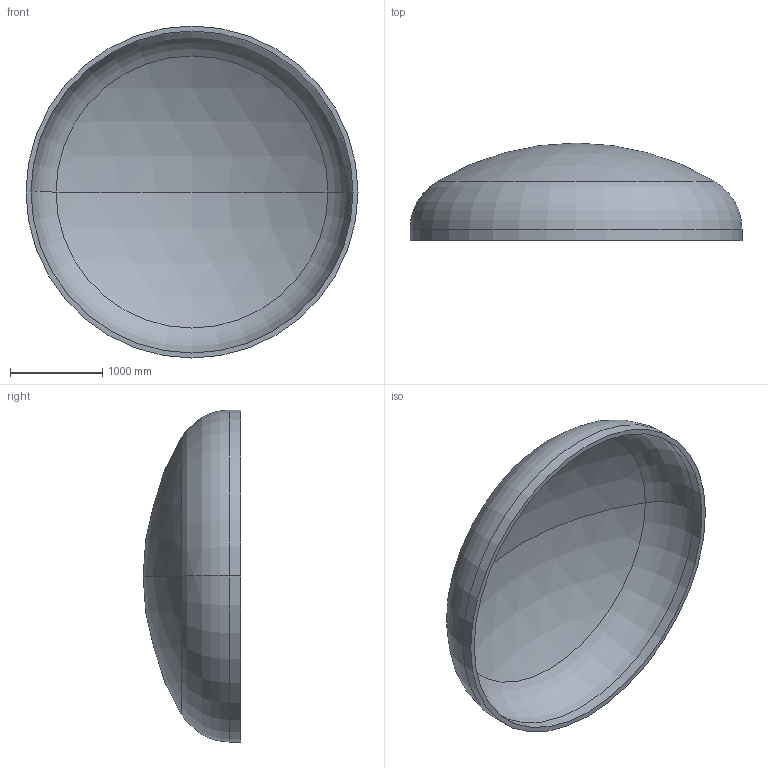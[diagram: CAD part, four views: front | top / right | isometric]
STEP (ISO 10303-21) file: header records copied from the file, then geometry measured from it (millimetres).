
FILE_DESCRIPTION (( 'STEP AP203' ), '1' );
FILE_NAME ('DIN 28013 Korbbogenform_-_Boden DIN 28013 - 3600 x 120 - I - s=54.step', '2016-07-01T20:32:49', ( '' ), ( '' ), 'SwSTEP 2.0', 'SolidWorks 2013', '' );
FILE_SCHEMA (( 'CONFIG_CONTROL_DESIGN' ));
Length unit declared in the file: millimetre
Products named in the file (1): DIN 28013 Korbbogenform_-_Boden DIN 28013 - 3600 x 120 - I - s=54
Bounding box: 3600 x 1057.22 x 3600 mm (x, y, z)
Volume: 818677367.4 mm3; surface area: 30929045.2 mm2
Topology: 1 solids, 1 shells, 13 faces, 24 edges, 14 vertices
Faces by surface type: torus 4, cylinder 4, sphere 4, plane 1
Entity records: 407 total; most frequent: DIRECTION 72, CARTESIAN_POINT 52, ORIENTED_EDGE 48, AXIS2_PLACEMENT_3D 34, EDGE_CURVE 24, CIRCLE 20, EDGE_LOOP 14, VERTEX_POINT 14
